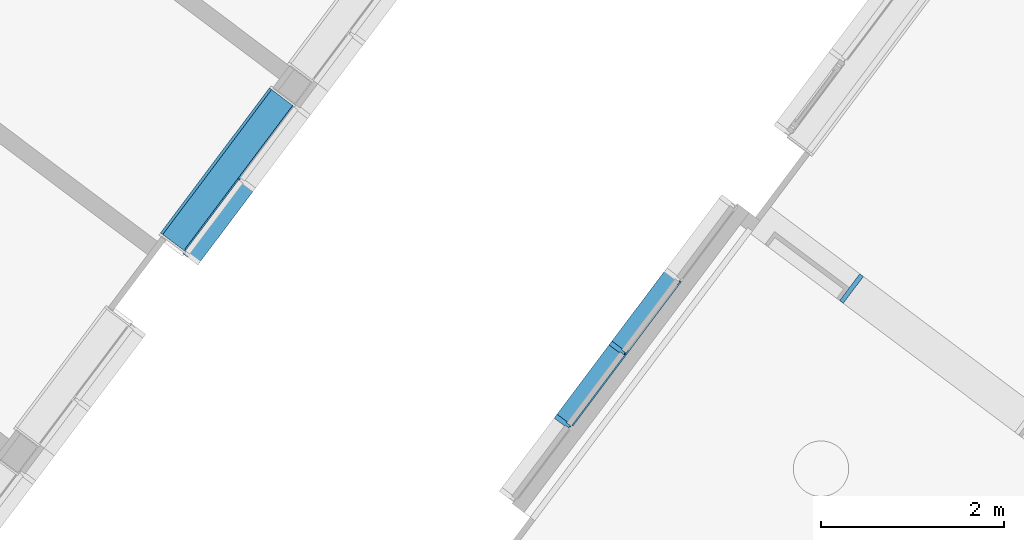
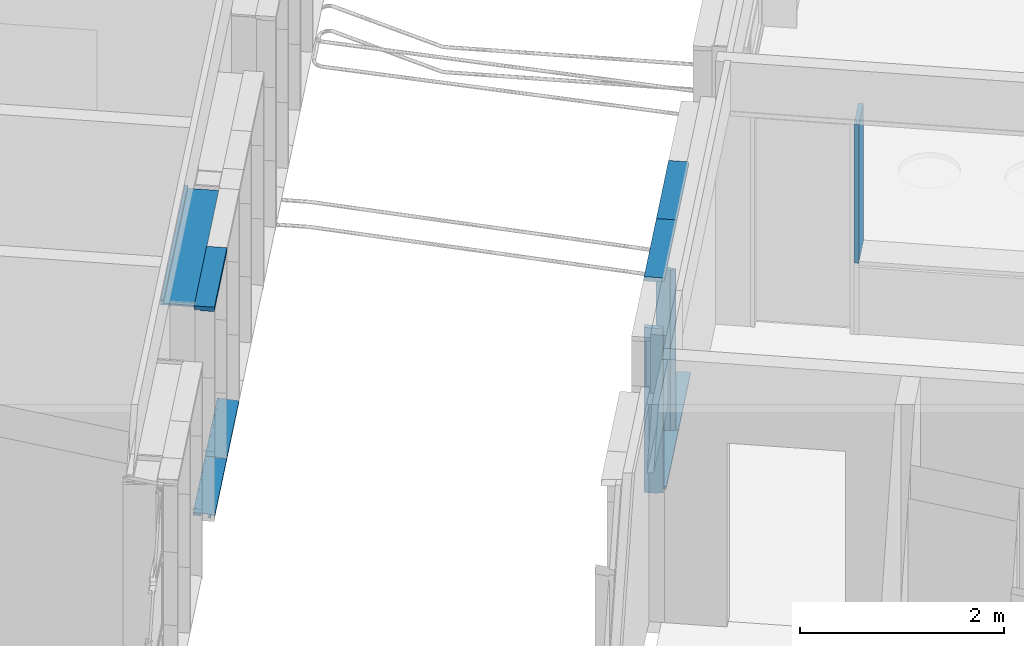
# One storey, part 18 of 243: 11 members, 4 elements without a shape of their own.
"""IFC2X3 building model written with IfcOpenShell, lengths in metres."""

from ifc_helpers import new_model, entity, si_unit, converted_unit, derived_unit, direction, frame, frame_2d, origin, origin_2d_with_axis, place, context, subcontext, project, spatial, polyline, circle_curve, parameter, trimmed, segment, composite_curve, rectangle, outline, extrude, source, transform, mapped, material, type_object, type_shapes, element, aggregate, save


model = new_model("IFC2X3")

# Units and contexts
model_context = context("Model", 3, precision=1e-05, world=origin(), true_north=direction((6.123031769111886e-17, 1.0)))
body_context = subcontext(model_context, "Body", "Model", "MODEL_VIEW")
ifc_project = project(units=[si_unit("LENGTHUNIT", "METRE"), si_unit("AREAUNIT", "SQUARE_METRE"), si_unit("VOLUMEUNIT", "CUBIC_METRE"), converted_unit("PLANEANGLEUNIT", "DEGREE", entity("IfcRatioMeasure", 0.017453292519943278), si_unit("PLANEANGLEUNIT", "RADIAN"), dimensions=[0, 0, 0, 0, 0, 0, 0]), si_unit("MASSUNIT", "GRAM", prefix="KILO"), derived_unit("MASSDENSITYUNIT", [(si_unit("MASSUNIT", "GRAM", prefix="KILO"), 1), (si_unit("LENGTHUNIT", "METRE"), -3)]), derived_unit("IONCONCENTRATIONUNIT", [(si_unit("MASSUNIT", "GRAM", prefix="KILO"), 1), (si_unit("LENGTHUNIT", "METRE"), -3)]), derived_unit("MOMENTOFINERTIAUNIT", [(si_unit("LENGTHUNIT", "METRE"), 4)]), si_unit("TIMEUNIT", "SECOND"), si_unit("FREQUENCYUNIT", "HERTZ"), si_unit("THERMODYNAMICTEMPERATUREUNIT", "DEGREE_CELSIUS"), derived_unit("THERMALTRANSMITTANCEUNIT", [(si_unit("MASSUNIT", "GRAM", prefix="KILO"), 1), (si_unit("THERMODYNAMICTEMPERATUREUNIT", "KELVIN"), -1), (si_unit("TIMEUNIT", "SECOND"), -3)]), derived_unit("THERMALCONDUCTANCEUNIT", [(si_unit("MASSUNIT", "GRAM", prefix="KILO"), 1), (si_unit("THERMODYNAMICTEMPERATUREUNIT", "KELVIN"), -1), (si_unit("TIMEUNIT", "SECOND"), -3), (si_unit("LENGTHUNIT", "METRE"), 1)]), derived_unit("VOLUMETRICFLOWRATEUNIT", [(si_unit("LENGTHUNIT", "METRE"), 3), (si_unit("TIMEUNIT", "SECOND"), -1)]), derived_unit("MASSFLOWRATEUNIT", [(si_unit("MASSUNIT", "GRAM", prefix="KILO"), 1), (si_unit("TIMEUNIT", "SECOND"), -1)]), derived_unit("ROTATIONALFREQUENCYUNIT", [(si_unit("TIMEUNIT", "SECOND"), -1)]), si_unit("ELECTRICCURRENTUNIT", "AMPERE"), si_unit("ELECTRICVOLTAGEUNIT", "VOLT"), si_unit("POWERUNIT", "WATT"), si_unit("FORCEUNIT", "NEWTON", prefix="KILO"), si_unit("ILLUMINANCEUNIT", "LUX"), si_unit("LUMINOUSFLUXUNIT", "LUMEN"), si_unit("LUMINOUSINTENSITYUNIT", "CANDELA"), derived_unit("USERDEFINED", [(si_unit("MASSUNIT", "GRAM", prefix="KILO"), -1), (si_unit("LENGTHUNIT", "METRE"), -2), (si_unit("TIMEUNIT", "SECOND"), 3), (si_unit("LUMINOUSFLUXUNIT", "LUMEN"), 1)]), derived_unit("USERDEFINED", [(si_unit("MASSUNIT", "GRAM", prefix="KILO"), 1), (si_unit("TIMEUNIT", "SECOND"), -3), (si_unit("LENGTHUNIT", "METRE"), 3), (si_unit("ELECTRICCURRENTUNIT", "AMPERE"), -2)]), derived_unit("SOUNDPOWERUNIT", [(si_unit("MASSUNIT", "GRAM", prefix="KILO"), 1), (si_unit("TIMEUNIT", "SECOND"), -3), (si_unit("LENGTHUNIT", "METRE"), 2)]), derived_unit("SOUNDPRESSUREUNIT", [(si_unit("MASSUNIT", "GRAM", prefix="KILO"), 1), (si_unit("LENGTHUNIT", "METRE"), -1), (si_unit("TIMEUNIT", "SECOND"), -2)]), derived_unit("LINEARVELOCITYUNIT", [(si_unit("LENGTHUNIT", "METRE"), 1), (si_unit("TIMEUNIT", "SECOND"), -1)]), si_unit("PRESSUREUNIT", "PASCAL"), derived_unit("USERDEFINED", [(si_unit("MASSUNIT", "GRAM", prefix="KILO"), 1), (si_unit("LENGTHUNIT", "METRE"), -2), (si_unit("TIMEUNIT", "SECOND"), -2)]), derived_unit("LINEARFORCEUNIT", [(si_unit("MASSUNIT", "GRAM", prefix="KILO"), 1), (si_unit("TIMEUNIT", "SECOND"), -2)]), derived_unit("PLANARFORCEUNIT", [(si_unit("MASSUNIT", "GRAM", prefix="KILO"), 1), (si_unit("LENGTHUNIT", "METRE"), -1), (si_unit("TIMEUNIT", "SECOND"), -2)]), derived_unit("SPECIFICHEATCAPACITYUNIT", [(si_unit("THERMODYNAMICTEMPERATUREUNIT", "KELVIN"), -1), (si_unit("LENGTHUNIT", "METRE"), 2), (si_unit("TIMEUNIT", "SECOND"), -2)]), derived_unit("HEATINGVALUEUNIT", [(si_unit("LENGTHUNIT", "METRE"), 2), (si_unit("TIMEUNIT", "SECOND"), -2)]), derived_unit("VAPORPERMEABILITYUNIT", [(si_unit("LENGTHUNIT", "METRE"), -1), (si_unit("TIMEUNIT", "SECOND"), 1)]), derived_unit("DYNAMICVISCOSITYUNIT", [(si_unit("MASSUNIT", "GRAM", prefix="KILO"), 1), (si_unit("TIMEUNIT", "SECOND"), -1), (si_unit("LENGTHUNIT", "METRE"), -1)]), derived_unit("THERMALEXPANSIONCOEFFICIENTUNIT", [(si_unit("THERMODYNAMICTEMPERATUREUNIT", "KELVIN"), -1)]), derived_unit("MODULUSOFELASTICITYUNIT", [(si_unit("MASSUNIT", "GRAM", prefix="KILO"), 1), (si_unit("LENGTHUNIT", "METRE"), -1), (si_unit("TIMEUNIT", "SECOND"), -2)]), derived_unit("ISOTHERMALMOISTURECAPACITYUNIT", [(si_unit("LENGTHUNIT", "METRE"), 3), (si_unit("MASSUNIT", "GRAM", prefix="KILO"), -1)]), derived_unit("MOISTUREDIFFUSIVITYUNIT", [(si_unit("TIMEUNIT", "SECOND"), -1), (si_unit("LENGTHUNIT", "METRE"), 2)])], contexts=[model_context])

# Site, building, storey
site_placement = place(None, frame((0.0, 0.0, 235.0), z_axis=(0.0, 0.0, 1.0), x_axis=(-0.7996477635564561, 0.6004693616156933, 0.0)))
site = spatial("IfcSite", under=ifc_project, at=site_placement, Name="Default", CompositionType="ELEMENT")
building_placement = place(site_placement, origin())
building = spatial("IfcBuilding", under=site, at=building_placement, CompositionType="ELEMENT")
storey_placement = place(building_placement, origin())
storey = spatial("IfcBuildingStorey", under=building, at=storey_placement, Name="P0- Escola", CompositionType="ELEMENT", Elevation=0.0)

# Curtain wall, members
curtain_wall_type_1 = type_object("IfcCurtainWallType", Name="Muro cortina:MC- EXT- MC2", PredefinedType="NOTDEFINED")
curtain_wall_1_placement = place(storey_placement, origin())
curtain_wall_1 = element("IfcCurtainWall", 1, at=curtain_wall_1_placement, inside=storey, type_object=curtain_wall_type_1, Name="Muro cortina:MC- EXT- MC2", ObjectType="Muro cortina:MC- EXT- MC2")
ifc_material_1 = material(Name="_Alumini- T1- Perfil")
member_type_1 = type_object("IfcMemberType", Name="Montante rectangular:MC- Alu- 140x52,5 cm- Fa patis- inferior", PredefinedType="MULLION", material=ifc_material_1)
shared_shape_1 = source(origin(), body_context, "Body", "SweptSolid", [
    extrude(outline(composite_curve([segment(polyline([(0.1278672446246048, -0.02586710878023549), (0.14416724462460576, -0.025867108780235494)]), True, "CONTINUOUS"), segment(polyline([(0.14416724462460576, -0.025867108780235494), (0.1441672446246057, 0.009132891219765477)]), True, "CONTINUOUS"), segment(polyline([(0.1441672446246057, 0.009132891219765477), (0.06786724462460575, 0.009132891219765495)]), True, "CONTINUOUS"), segment(polyline([(0.06786724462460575, 0.009132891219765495), (0.06786724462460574, -0.021159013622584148)]), True, "CONTINUOUS"), segment(polyline([(0.06786724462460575, -0.02115901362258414), (-0.030132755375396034, -0.012332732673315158)]), True, "CONTINUOUS"), segment(polyline([(-0.03013275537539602, -0.012332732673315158), (-0.030132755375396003, 0.027132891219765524)]), True, "CONTINUOUS"), segment(polyline([(-0.030132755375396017, 0.02713289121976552), (-0.0021327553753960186, 0.02713289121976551)]), True, "CONTINUOUS"), segment(polyline([(-0.0021327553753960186, 0.027132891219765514), (-0.0021327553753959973, 0.029132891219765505)]), True, "CONTINUOUS"), segment(polyline([(-0.0021327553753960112, 0.029132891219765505), (-0.032132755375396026, 0.029132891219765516)]), True, "CONTINUOUS"), segment(polyline([(-0.032132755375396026, 0.029132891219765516), (-0.03213275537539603, -0.012152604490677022)]), True, "CONTINUOUS"), segment(polyline([(-0.03213275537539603, -0.012152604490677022), (-0.0701327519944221, -0.008730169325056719)]), True, "CONTINUOUS"), segment(polyline([(-0.0701327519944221, -0.008730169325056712), (-0.0701327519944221, 0.005766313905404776)]), True, "CONTINUOUS"), segment(trimmed(circle_curve(frame_2d((-0.0696327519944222, 0.0057663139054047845), x_axis=(-1.0, 0.0)), 0.0004999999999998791), [parameter(269.999999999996)], [parameter(0.0)], True, "PARAMETER"), False, "CONTINUOUS"), segment(polyline([(-0.0696327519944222, 0.00626631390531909), (-0.06213275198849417, 0.006266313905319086)]), True, "CONTINUOUS"), segment(polyline([(-0.06213275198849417, 0.006266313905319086), (-0.06213275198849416, 0.008266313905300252)]), True, "CONTINUOUS"), segment(polyline([(-0.06213275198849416, 0.008266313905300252), (-0.07013275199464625, 0.008266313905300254)]), True, "CONTINUOUS"), segment(trimmed(circle_curve(frame_2d((-0.07013275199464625, 0.006266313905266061), x_axis=(0.0, 1.0)), 0.0020000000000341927), [parameter(0.0)], [parameter(90.00000002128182)], True, "PARAMETER"), True, "CONTINUOUS"), segment(polyline([(-0.07213275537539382, 0.006266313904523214), (-0.07213275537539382, -0.008730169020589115)]), True, "CONTINUOUS"), segment(trimmed(circle_curve(frame_2d((-0.07013275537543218, -0.008730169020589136), x_axis=(-1.0, 0.0)), 0.0019999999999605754), [parameter(0.0)], [parameter(84.85359280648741)], True, "PARAMETER"), True, "CONTINUOUS"), segment(polyline([(-0.07031215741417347, -0.01072210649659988), (0.06786724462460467, -0.023167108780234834)]), True, "CONTINUOUS"), segment(polyline([(0.06786724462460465, -0.023167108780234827), (0.12786724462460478, -0.023167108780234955)]), True, "CONTINUOUS"), segment(polyline([(0.12786724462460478, -0.023167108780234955), (0.1278672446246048, -0.02586710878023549)]), True, "CONTINUOUS")], self_intersect=False)), frame((-0.029132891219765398, 0.06786724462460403, -0.9737499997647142), z_axis=(0.0, 0.0, 1.0), x_axis=(0.0, -1.0, 0.0)), (0.0, 0.0, 1.0), 0.9737499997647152),
])
type_shapes(member_type_1, [shared_shape_1])
member_1_placement = place(curtain_wall_1_placement, frame((28.345147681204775, -25.44144175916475, -0.02), z_axis=(0.0, 1.0, 0.0), x_axis=(0.0, 0.0, -1.0)))
member_1 = element("IfcMember", 2, at=member_1_placement, type_object=member_type_1, material=ifc_material_1, Name="Montante rectangular:MC- Alu- 140x52,5 cm- Fa patis- inferior", ObjectType="Montante rectangular:MC- Alu- 140x52,5 cm- Fa patis- inferior", context=body_context, shape_type="MappedRepresentation", body=[
    mapped(shared_shape_1, transform((0.0, 0.0, 0.0), scale=1.0)),
])
member_type_2 = type_object("IfcMemberType", Name="Montante rectangular:MC- Alu- 140x52,5 cm- Fa patis- inferior", PredefinedType="MULLION", material=ifc_material_1)
shared_shape_2 = source(origin(), body_context, "Body", "SweptSolid", [
    extrude(outline(composite_curve([segment(polyline([(0.1278672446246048, -0.02586710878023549), (0.14416724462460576, -0.025867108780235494)]), True, "CONTINUOUS"), segment(polyline([(0.14416724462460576, -0.025867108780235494), (0.1441672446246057, 0.009132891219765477)]), True, "CONTINUOUS"), segment(polyline([(0.1441672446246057, 0.009132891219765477), (0.06786724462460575, 0.009132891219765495)]), True, "CONTINUOUS"), segment(polyline([(0.06786724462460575, 0.009132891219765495), (0.06786724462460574, -0.021159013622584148)]), True, "CONTINUOUS"), segment(polyline([(0.06786724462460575, -0.02115901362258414), (-0.030132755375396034, -0.012332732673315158)]), True, "CONTINUOUS"), segment(polyline([(-0.03013275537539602, -0.012332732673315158), (-0.030132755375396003, 0.027132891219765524)]), True, "CONTINUOUS"), segment(polyline([(-0.030132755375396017, 0.02713289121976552), (-0.0021327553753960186, 0.02713289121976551)]), True, "CONTINUOUS"), segment(polyline([(-0.0021327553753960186, 0.027132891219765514), (-0.0021327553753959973, 0.029132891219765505)]), True, "CONTINUOUS"), segment(polyline([(-0.0021327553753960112, 0.029132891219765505), (-0.032132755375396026, 0.029132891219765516)]), True, "CONTINUOUS"), segment(polyline([(-0.032132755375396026, 0.029132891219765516), (-0.03213275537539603, -0.012152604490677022)]), True, "CONTINUOUS"), segment(polyline([(-0.03213275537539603, -0.012152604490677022), (-0.0701327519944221, -0.008730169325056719)]), True, "CONTINUOUS"), segment(polyline([(-0.0701327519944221, -0.008730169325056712), (-0.0701327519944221, 0.005766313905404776)]), True, "CONTINUOUS"), segment(trimmed(circle_curve(frame_2d((-0.0696327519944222, 0.0057663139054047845), x_axis=(-1.0, 0.0)), 0.0004999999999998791), [parameter(269.999999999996)], [parameter(0.0)], True, "PARAMETER"), False, "CONTINUOUS"), segment(polyline([(-0.0696327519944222, 0.00626631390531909), (-0.06213275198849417, 0.006266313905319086)]), True, "CONTINUOUS"), segment(polyline([(-0.06213275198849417, 0.006266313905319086), (-0.06213275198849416, 0.008266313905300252)]), True, "CONTINUOUS"), segment(polyline([(-0.06213275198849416, 0.008266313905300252), (-0.07013275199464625, 0.008266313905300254)]), True, "CONTINUOUS"), segment(trimmed(circle_curve(frame_2d((-0.07013275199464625, 0.006266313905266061), x_axis=(0.0, 1.0)), 0.0020000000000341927), [parameter(0.0)], [parameter(90.00000002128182)], True, "PARAMETER"), True, "CONTINUOUS"), segment(polyline([(-0.07213275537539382, 0.006266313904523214), (-0.07213275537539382, -0.008730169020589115)]), True, "CONTINUOUS"), segment(trimmed(circle_curve(frame_2d((-0.07013275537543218, -0.008730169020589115), x_axis=(-1.0, 0.0)), 0.0019999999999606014), [parameter(0.0)], [parameter(84.8535928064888)], True, "PARAMETER"), True, "CONTINUOUS"), segment(polyline([(-0.07031215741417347, -0.01072210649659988), (0.06786724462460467, -0.023167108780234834)]), True, "CONTINUOUS"), segment(polyline([(0.06786724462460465, -0.023167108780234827), (0.12786724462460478, -0.023167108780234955)]), True, "CONTINUOUS"), segment(polyline([(0.12786724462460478, -0.023167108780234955), (0.1278672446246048, -0.02586710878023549)]), True, "CONTINUOUS")], self_intersect=False)), frame((-0.029132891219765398, 0.06786724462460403, -1.0), z_axis=(0.0, 0.0, 1.0), x_axis=(0.0, -1.0, 0.0)), (0.0, 0.0, 1.0), 0.9999999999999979),
])
type_shapes(member_type_2, [shared_shape_2])
member_2_placement = place(curtain_wall_1_placement, frame((28.345147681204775, -26.415191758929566, -0.02), z_axis=(0.0, 1.0, 0.0), x_axis=(0.0, 0.0, -1.0)))
member_2 = element("IfcMember", 3, at=member_2_placement, type_object=member_type_2, material=ifc_material_1, Name="Montante rectangular:MC- Alu- 140x52,5 cm- Fa patis- inferior", ObjectType="Montante rectangular:MC- Alu- 140x52,5 cm- Fa patis- inferior", context=body_context, shape_type="MappedRepresentation", body=[
    mapped(shared_shape_2, transform((0.0, 0.0, 0.0), scale=1.0)),
])

# Curtain wall, member
curtain_wall_type_2 = type_object("IfcCurtainWallType", Name="Muro cortina:MC- INT- k7- Aules infantil", PredefinedType="NOTDEFINED")
curtain_wall_2_placement = place(storey_placement, origin())
curtain_wall_2 = element("IfcCurtainWall", 4, at=curtain_wall_2_placement, inside=storey, type_object=curtain_wall_type_2, Name="Muro cortina:MC- INT- k7- Aules infantil", ObjectType="Muro cortina:MC- INT- k7- Aules infantil")
ifc_material_2 = material(Name="_Fusta massisa- T1")
member_type_3 = type_object("IfcMemberType", Name="Montante rectangular:MC- Fusta- 35x3 cm- Pati aules- Remat superior", PredefinedType="MULLION", material=ifc_material_2)
shared_shape_3 = source(origin(), body_context, "Body", "SweptSolid", [
    extrude(outline(polyline([(-0.21333333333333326, -0.02666666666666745), (0.1216666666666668, -0.02666666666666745), (0.12166666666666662, 0.03333333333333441), (0.09166666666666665, 0.03333333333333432), (0.09166666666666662, -0.006666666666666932), (-0.2133333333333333, -0.006666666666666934), (-0.21333333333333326, -0.02666666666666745)])), frame((-0.033333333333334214, 0.026666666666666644, -1.9800000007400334), z_axis=(0.0, 0.0, 1.0), x_axis=(0.0, -1.0, 0.0)), (0.0, 0.0, 1.0), 1.9800000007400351),
])
type_shapes(member_type_3, [shared_shape_3])
member_3_placement = place(curtain_wall_2_placement, frame((28.645147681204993, -27.405191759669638, 2.565), z_axis=(0.0, -1.0, 0.0), x_axis=(0.0, 0.0, 1.0)))
member_3 = element("IfcMember", 5, at=member_3_placement, type_object=member_type_3, material=ifc_material_2, Name="Montante rectangular:MC- Fusta- 35x3 cm- Pati aules- Remat superior", ObjectType="Montante rectangular:MC- Fusta- 35x3 cm- Pati aules- Remat superior", context=body_context, shape_type="MappedRepresentation", body=[
    mapped(shared_shape_3, transform((0.0, 0.0, 0.0), scale=1.0)),
])
aggregate(curtain_wall_2, [member_3])

# Member
member_type_4 = type_object("IfcMemberType", Name="Montante rectangular:MC- Alu- 140x52,5 cm- Fa patis- Superior", PredefinedType="MULLION", material=ifc_material_1)
shared_shape_4 = source(origin(), body_context, "Body", "SweptSolid", [
    extrude(outline(polyline([(-0.11366666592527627, -0.021249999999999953), (0.02633333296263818, -0.021249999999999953), (0.02633333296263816, -0.010000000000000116), (0.08733333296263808, -0.010000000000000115), (0.08733333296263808, 0.03125000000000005), (-0.11366666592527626, 0.031250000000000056), (-0.11366666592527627, -0.021249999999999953)])), frame((-0.031250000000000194, 0.027333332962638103, -1.0262500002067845), z_axis=(0.0, 0.0, 1.0), x_axis=(0.0, -1.0, 0.0)), (0.0, 0.0, 1.0), 1.0262500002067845),
])
type_shapes(member_type_4, [shared_shape_4])
member_4_placement = place(curtain_wall_1_placement, frame((28.345147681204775, -26.415191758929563, 2.545), z_axis=(0.0, -1.0, 0.0), x_axis=(0.0, 0.0, 1.0)))
member_4 = element("IfcMember", 6, at=member_4_placement, type_object=member_type_4, material=ifc_material_1, Name="Montante rectangular:MC- Alu- 140x52,5 cm- Fa patis- Superior", ObjectType="Montante rectangular:MC- Alu- 140x52,5 cm- Fa patis- Superior", context=body_context, shape_type="MappedRepresentation", body=[
    mapped(shared_shape_4, transform((0.0, 0.0, 0.0), scale=1.0)),
])

aggregate(curtain_wall_1, [member_4, member_2, member_1])

# Curtain wall, members
curtain_wall_3_placement = place(storey_placement, origin())
curtain_wall_3 = element("IfcCurtainWall", 7, at=curtain_wall_3_placement, inside=storey, type_object=curtain_wall_type_1, Name="Muro cortina:MC- EXT- MC2", ObjectType="Muro cortina:MC- EXT- MC2")
member_type_5 = type_object("IfcMemberType", Name="Montante rectangular:MC- Alu- 140x52,5 cm- Fa patis- inferior", PredefinedType="MULLION", material=ifc_material_1)
shared_shape_5 = source(origin(), body_context, "Body", "SweptSolid", [
    extrude(outline(composite_curve([segment(polyline([(-0.144167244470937, -0.025867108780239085), (-0.12786724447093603, -0.02586710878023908)]), True, "CONTINUOUS"), segment(polyline([(-0.12786724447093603, -0.02586710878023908), (-0.12786724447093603, -0.023167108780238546)]), True, "CONTINUOUS"), segment(polyline([(-0.12786724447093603, -0.023167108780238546), (-0.0678672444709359, -0.023167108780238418)]), True, "CONTINUOUS"), segment(polyline([(-0.0678672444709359, -0.023167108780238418), (0.07031215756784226, -0.010722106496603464)]), True, "CONTINUOUS"), segment(trimmed(circle_curve(frame_2d((0.07013275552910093, -0.008730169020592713), x_axis=(0.0897010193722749, -0.9959687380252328)), 0.0019999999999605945), [parameter(0.0)], [parameter(84.8535928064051)], True, "PARAMETER"), True, "CONTINUOUS"), segment(polyline([(0.07213275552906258, -0.008730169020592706), (0.07213275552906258, 0.006266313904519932)]), True, "CONTINUOUS"), segment(trimmed(circle_curve(frame_2d((0.07013275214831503, 0.006266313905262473), x_axis=(1.0, 0.0)), 0.0020000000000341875), [parameter(0.0)], [parameter(90.00000002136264)], True, "PARAMETER"), True, "CONTINUOUS"), segment(polyline([(0.070132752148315, 0.008266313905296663), (0.06213275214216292, 0.008266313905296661)]), True, "CONTINUOUS"), segment(polyline([(0.06213275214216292, 0.008266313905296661), (0.06213275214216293, 0.006266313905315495)]), True, "CONTINUOUS"), segment(polyline([(0.06213275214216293, 0.006266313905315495), (0.06963275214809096, 0.006266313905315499)]), True, "CONTINUOUS"), segment(trimmed(circle_curve(frame_2d((0.06963275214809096, 0.005766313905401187), x_axis=(0.0, 1.0)), 0.0004999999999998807), [parameter(269.9999999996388)], [parameter(0.0)], True, "PARAMETER"), False, "CONTINUOUS"), segment(polyline([(0.07013275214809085, 0.005766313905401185), (0.07013275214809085, -0.008730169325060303)]), True, "CONTINUOUS"), segment(polyline([(0.07013275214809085, -0.008730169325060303), (0.03213275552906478, -0.012152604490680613)]), True, "CONTINUOUS"), segment(polyline([(0.03213275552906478, -0.0121526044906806), (0.03213275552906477, 0.029132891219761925)]), True, "CONTINUOUS"), segment(polyline([(0.03213275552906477, 0.029132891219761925), (0.0021327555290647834, 0.029132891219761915)]), True, "CONTINUOUS"), segment(polyline([(0.0021327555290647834, 0.029132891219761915), (0.0021327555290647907, 0.02713289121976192)]), True, "CONTINUOUS"), segment(polyline([(0.0021327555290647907, 0.02713289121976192), (0.03013275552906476, 0.02713289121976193)]), True, "CONTINUOUS"), segment(polyline([(0.03013275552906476, 0.027132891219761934), (0.03013275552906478, -0.012332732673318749)]), True, "CONTINUOUS"), segment(polyline([(0.03013275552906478, -0.012332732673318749), (-0.06786724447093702, -0.021159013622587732)]), True, "CONTINUOUS"), segment(polyline([(-0.06786724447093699, -0.02115901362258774), (-0.067867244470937, 0.009132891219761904)]), True, "CONTINUOUS"), segment(polyline([(-0.06786724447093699, 0.009132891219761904), (-0.14416724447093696, 0.009132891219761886)]), True, "CONTINUOUS"), segment(polyline([(-0.14416724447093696, 0.009132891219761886), (-0.144167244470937, -0.025867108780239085)]), True, "CONTINUOUS")], self_intersect=False)), frame((-0.029132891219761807, -0.06786724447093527, -0.9737499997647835), z_axis=(0.0, 0.0, 1.0), x_axis=(0.0, -1.0, 0.0)), (0.0, 0.0, 1.0), 0.9737499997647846),
])
type_shapes(member_type_5, [shared_shape_5])
member_5_placement = place(curtain_wall_3_placement, frame((23.94514768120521, -26.441441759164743, -0.02), z_axis=(0.0, 1.0, 0.0), x_axis=(0.0, 0.0, -1.0)))
member_5 = element("IfcMember", 8, at=member_5_placement, type_object=member_type_5, material=ifc_material_1, Name="Montante rectangular:MC- Alu- 140x52,5 cm- Fa patis- inferior", ObjectType="Montante rectangular:MC- Alu- 140x52,5 cm- Fa patis- inferior", context=body_context, shape_type="MappedRepresentation", body=[
    mapped(shared_shape_5, transform((0.0, 0.0, 0.0), scale=1.0)),
])
member_type_6 = type_object("IfcMemberType", Name="Montante rectangular:MC- Alu- 140x52,5 cm- Fa patis- Superior", PredefinedType="MULLION", material=ifc_material_1)
shared_shape_6 = source(origin(), body_context, "Body", "SweptSolid", [
    extrude(outline(polyline([(-0.026333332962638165, -0.021249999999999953), (0.11366666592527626, -0.021249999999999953), (0.11366666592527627, 0.031250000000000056), (-0.08733333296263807, 0.03125000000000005), (-0.0873333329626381, -0.010000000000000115), (-0.026333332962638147, -0.010000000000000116), (-0.026333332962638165, -0.021249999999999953)])), frame((-0.031250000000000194, -0.02733333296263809, -1.0), z_axis=(0.0, 0.0, 1.0), x_axis=(0.0, -1.0, 0.0)), (0.0, 0.0, 1.0), 1.0000000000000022),
])
type_shapes(member_type_6, [shared_shape_6])
member_6_placement = place(curtain_wall_3_placement, frame((23.945147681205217, -27.415191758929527, 2.545), z_axis=(0.0, -1.0, 0.0), x_axis=(0.0, 0.0, 1.0)))
member_6 = element("IfcMember", 9, at=member_6_placement, type_object=member_type_6, material=ifc_material_1, Name="Montante rectangular:MC- Alu- 140x52,5 cm- Fa patis- Superior", ObjectType="Montante rectangular:MC- Alu- 140x52,5 cm- Fa patis- Superior", context=body_context, shape_type="MappedRepresentation", body=[
    mapped(shared_shape_6, transform((0.0, 0.0, 0.0), scale=1.0)),
])
member_7_placement = place(curtain_wall_3_placement, frame((23.945147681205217, -28.415191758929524, 2.545), z_axis=(0.0, -1.0, 0.0), x_axis=(0.0, 0.0, 1.0)))
member_7 = element("IfcMember", 10, at=member_7_placement, type_object=member_type_6, material=ifc_material_1, Name="Montante rectangular:MC- Alu- 140x52,5 cm- Fa patis- Superior", ObjectType="Montante rectangular:MC- Alu- 140x52,5 cm- Fa patis- Superior", context=body_context, shape_type="MappedRepresentation", body=[
    mapped(shared_shape_6, transform((0.0, 0.0, 0.0), scale=1.0)),
])
member_type_7 = type_object("IfcMemberType", Name="Montante rectangular:MC- Alu- 140x52,5 cm- Fa patis- inferior", PredefinedType="MULLION", material=ifc_material_1)
shared_shape_7 = source(origin(), body_context, "Body", "SweptSolid", [
    extrude(outline(composite_curve([segment(polyline([(-0.144167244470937, -0.02586710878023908), (-0.12786724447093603, -0.025867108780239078)]), True, "CONTINUOUS"), segment(polyline([(-0.12786724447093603, -0.025867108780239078), (-0.12786724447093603, -0.023167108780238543)]), True, "CONTINUOUS"), segment(polyline([(-0.12786724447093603, -0.023167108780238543), (-0.0678672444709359, -0.023167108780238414)]), True, "CONTINUOUS"), segment(polyline([(-0.0678672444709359, -0.023167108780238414), (0.07031215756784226, -0.01072210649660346)]), True, "CONTINUOUS"), segment(trimmed(circle_curve(frame_2d((0.07013275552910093, -0.00873016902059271), x_axis=(0.0897010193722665, -0.9959687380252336)), 0.0019999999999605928), [parameter(0.0)], [parameter(84.85359280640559)], True, "PARAMETER"), True, "CONTINUOUS"), segment(polyline([(0.07213275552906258, -0.008730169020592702), (0.07213275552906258, 0.006266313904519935)]), True, "CONTINUOUS"), segment(trimmed(circle_curve(frame_2d((0.070132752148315, 0.0062663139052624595), x_axis=(1.0, 0.0)), 0.0020000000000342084), [parameter(0.0)], [parameter(90.00000002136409)], True, "PARAMETER"), True, "CONTINUOUS"), segment(polyline([(0.070132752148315, 0.008266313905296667), (0.06213275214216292, 0.008266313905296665)]), True, "CONTINUOUS"), segment(polyline([(0.06213275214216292, 0.008266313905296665), (0.06213275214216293, 0.006266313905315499)]), True, "CONTINUOUS"), segment(polyline([(0.06213275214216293, 0.006266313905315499), (0.06963275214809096, 0.006266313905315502)]), True, "CONTINUOUS"), segment(trimmed(circle_curve(frame_2d((0.06963275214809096, 0.005766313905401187), x_axis=(0.0, 1.0)), 0.000499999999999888), [parameter(269.9999999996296)], [parameter(0.0)], True, "PARAMETER"), False, "CONTINUOUS"), segment(polyline([(0.07013275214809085, 0.005766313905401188), (0.07013275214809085, -0.0087301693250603)]), True, "CONTINUOUS"), segment(polyline([(0.07013275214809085, -0.0087301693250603), (0.03213275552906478, -0.01215260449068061)]), True, "CONTINUOUS"), segment(polyline([(0.03213275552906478, -0.012152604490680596), (0.03213275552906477, 0.02913289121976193)]), True, "CONTINUOUS"), segment(polyline([(0.03213275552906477, 0.02913289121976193), (0.0021327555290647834, 0.029132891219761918)]), True, "CONTINUOUS"), segment(polyline([(0.0021327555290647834, 0.029132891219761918), (0.0021327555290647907, 0.027132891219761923)]), True, "CONTINUOUS"), segment(polyline([(0.0021327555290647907, 0.027132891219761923), (0.03013275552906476, 0.027132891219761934)]), True, "CONTINUOUS"), segment(polyline([(0.03013275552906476, 0.027132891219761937), (0.03013275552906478, -0.012332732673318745)]), True, "CONTINUOUS"), segment(polyline([(0.03013275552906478, -0.012332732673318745), (-0.06786724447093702, -0.02115901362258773)]), True, "CONTINUOUS"), segment(polyline([(-0.06786724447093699, -0.021159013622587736), (-0.067867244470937, 0.009132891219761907)]), True, "CONTINUOUS"), segment(polyline([(-0.06786724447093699, 0.009132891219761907), (-0.14416724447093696, 0.00913289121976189)]), True, "CONTINUOUS"), segment(polyline([(-0.14416724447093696, 0.00913289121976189), (-0.144167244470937, -0.02586710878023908)]), True, "CONTINUOUS")], self_intersect=False)), frame((-0.02913289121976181, -0.06786724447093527, -1.0), z_axis=(0.0, 0.0, 1.0), x_axis=(0.0, -1.0, 0.0)), (0.0, 0.0, 1.0), 0.9999999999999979),
])
type_shapes(member_type_7, [shared_shape_7])
member_8_placement = place(curtain_wall_3_placement, frame((23.945147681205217, -27.415191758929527, -0.02), z_axis=(0.0, 1.0, 0.0), x_axis=(0.0, 0.0, -1.0)))
member_8 = element("IfcMember", 11, at=member_8_placement, type_object=member_type_7, material=ifc_material_1, Name="Montante rectangular:MC- Alu- 140x52,5 cm- Fa patis- inferior", ObjectType="Montante rectangular:MC- Alu- 140x52,5 cm- Fa patis- inferior", context=body_context, shape_type="MappedRepresentation", body=[
    mapped(shared_shape_7, transform((0.0, 0.0, 0.0), scale=1.0)),
])
member_type_8 = type_object("IfcMemberType", Name="Montante rectangular:MC- Alu- 140x52,5 cm- Fa patis- Centre", PredefinedType="MULLION", material=ifc_material_1)
shared_shape_8 = source(origin(), body_context, "Body", "SweptSolid", [
    extrude(outline(polyline([(-0.021999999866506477, -0.026250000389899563), (0.11699999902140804, -0.026250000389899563), (0.11699999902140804, 0.026250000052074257), (-0.02200000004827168, 0.026250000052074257), (-0.02200000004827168, 0.015000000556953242), (-0.07299999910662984, 0.015000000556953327), (-0.07299999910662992, -0.01500000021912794), (-0.021999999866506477, -0.01500000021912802), (-0.021999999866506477, -0.026250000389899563)])), frame((0.0, -0.022999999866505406, -1.9749999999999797), z_axis=(0.0, 0.0, 1.0), x_axis=(0.0, -1.0, 0.0)), (0.0, 0.0, 1.0), 1.9749999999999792),
])
type_shapes(member_type_8, [shared_shape_8])
member_9_placement = place(curtain_wall_3_placement, frame((23.94514768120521, -26.415191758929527, -0.02), z_axis=(0.0, 0.0, -1.0), x_axis=(0.0, -1.0, 0.0)))
member_9 = element("IfcMember", 12, at=member_9_placement, type_object=member_type_8, material=ifc_material_1, Name="Montante rectangular:MC- Alu- 140x52,5 cm- Fa patis- Centre", ObjectType="Montante rectangular:MC- Alu- 140x52,5 cm- Fa patis- Centre", context=body_context, shape_type="MappedRepresentation", body=[
    mapped(shared_shape_8, transform((0.0, 0.0, 0.0), scale=1.0)),
])
member_type_9 = type_object("IfcMemberType", Name="Montante rectangular:MC- Alu- 140x52,5 cm- Fa patis- Centre", PredefinedType="MULLION", material=ifc_material_1)
shared_shape_9 = source(origin(), body_context, "Body", "SweptSolid", [
    extrude(outline(polyline([(-0.021999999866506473, -0.026250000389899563), (0.11699999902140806, -0.026250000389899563), (0.11699999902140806, 0.026250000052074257), (-0.022000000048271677, 0.026250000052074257), (-0.022000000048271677, 0.015000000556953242), (-0.07299999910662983, 0.015000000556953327), (-0.07299999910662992, -0.01500000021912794), (-0.021999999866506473, -0.01500000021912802), (-0.021999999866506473, -0.026250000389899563)])), frame((0.0, -0.022999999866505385, -1.919999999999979), z_axis=(0.0, 0.0, 1.0), x_axis=(0.0, -1.0, 0.0)), (0.0, 0.0, 1.0), 1.9199999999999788),
])
type_shapes(member_type_9, [shared_shape_9])
member_10_placement = place(curtain_wall_3_placement, frame((23.945147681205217, -27.415191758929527, 0.035000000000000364), z_axis=(0.0, 0.0, -1.0), x_axis=(0.0, -1.0, 0.0)))
member_10 = element("IfcMember", 13, at=member_10_placement, type_object=member_type_9, material=ifc_material_1, Name="Montante rectangular:MC- Alu- 140x52,5 cm- Fa patis- Centre", ObjectType="Montante rectangular:MC- Alu- 140x52,5 cm- Fa patis- Centre", context=body_context, shape_type="MappedRepresentation", body=[
    mapped(shared_shape_9, transform((0.0, 0.0, 0.0), scale=1.0)),
])
aggregate(curtain_wall_3, [member_5, member_9, member_6, member_8, member_10, member_7])

# Curtain wall, member
curtain_wall_type_3 = type_object("IfcCurtainWallType", Name="Muro cortina:MC- INT- b3", PredefinedType="NOTDEFINED")
curtain_wall_4_placement = place(storey_placement, origin())
curtain_wall_4 = element("IfcCurtainWall", 14, at=curtain_wall_4_placement, inside=storey, type_object=curtain_wall_type_3, Name="Muro cortina:MC- INT- b3", ObjectType="Muro cortina:MC- INT- b3")
member_type_10 = type_object("IfcMemberType", Name="Montante rectangular:MC- Fusta- 38x5 cm- Menjador- neutre.rfa", PredefinedType="MULLION", material=ifc_material_2)
shared_shape_10 = source(origin(), body_context, "Body", "SweptSolid", [
    extrude(rectangle(XDim=0.36600000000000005, YDim=0.05, at=origin_2d_with_axis()), frame((0.0, 0.006999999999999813, -1.66), z_axis=(0.0, 0.0, 1.0), x_axis=(0.0, -1.0, 0.0)), (0.0, 0.0, 1.0), 1.66),
])
type_shapes(member_type_10, [shared_shape_10])
member_11_placement = place(curtain_wall_4_placement, frame((22.33764768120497, -29.465191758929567, 0.855), z_axis=(0.0, 0.0, -1.0), x_axis=(1.0, 0.0, 0.0)))
member_11 = element("IfcMember", 15, at=member_11_placement, type_object=member_type_10, material=ifc_material_2, Name="Montante rectangular:MC- Fusta- 38x5 cm- Menjador- neutre.rfa", ObjectType="Montante rectangular:MC- Fusta- 38x5 cm- Menjador- neutre.rfa", context=body_context, shape_type="MappedRepresentation", body=[
    mapped(shared_shape_10, transform((0.0, 0.0, 0.0), scale=1.0)),
])
aggregate(curtain_wall_4, [member_11])

save(model, "model.ifc")
